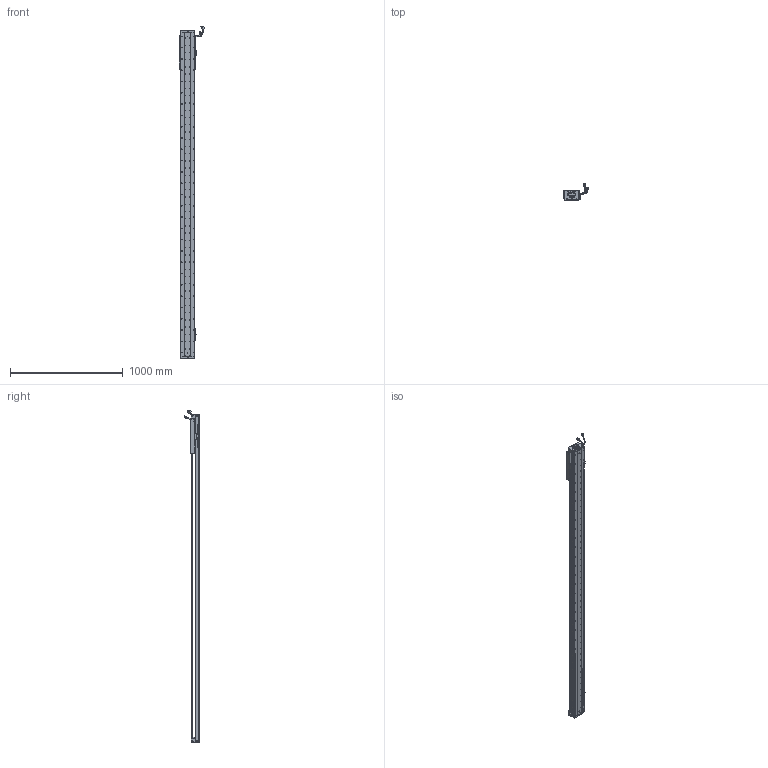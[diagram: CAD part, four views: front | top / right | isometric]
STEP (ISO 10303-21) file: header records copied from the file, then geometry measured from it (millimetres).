
FILE_DESCRIPTION (( 'STEP AP203' ), '1' );
FILE_NAME ('Z4-RY120D-1-L500-B-K.SLDASM_2500.step', '2021-05-17T06:10:39', ( '盈信电脑' ), ( '东莞市道滘镇水果街19号' ), 'SwSTEP 2.0', 'SolidWorks 2016', '' );
FILE_SCHEMA (( 'CONFIG_CONTROL_DESIGN' ));
Length unit declared in the file: millimetre
Products named in the file (37): 120-Z-臏賑輸盄裔(21遴); 672嫖萇羲壽假蚾釱; 140蚥薯蝶輸; PSLH080_PSLF2; 140雄赽晤鎢ん堤盄; Z4-RY120-500-倰第菁釱_2500; COVER-Part-1; 080黍杅芛假蚾釱21遴; Z-RY120D詩湍奻揤裔; LABEL-Part-1; HARNESS; HARNESS-Part-2; HOLDER0; SCREW-M1.7; SEAL; Z4-RY120D-1-L500-B-K.SLDASM_2500; PBU_SHEET; Z4-RY120-L500詩湍100mm遵_2500; SCALE-Part-2; Z4-RY120铝滑块（21款）; SCREW-M1.6-2; SCALE-Part-1; SCREW-M1.7-1; RY100FB-遵嫖萇覜茼え; 榋妏寠巭燃_暯_M2_2; SEAL-Part-1; SHIELDPLATE; HARNESS-Part-1; SCREW-M1.6; COVER; Z-RY120D詩湍狟揤裔; Z-120詩湍傷裔啣; 覜茼ん672; SCREW-M1.6-1; SCALE; SCREW-M1.6-3; LABEL
Assembly tree (43 placements, depth 4):
  Z4-RY120D-1-L500-B-K.SLDASM_2500
    Z4-RY120-500-倰第菁釱_2500
    覜茼ん672  x3
    672嫖萇羲壽假蚾釱  x2
    Z4-RY120铝滑块（21款）
    PSLH080_PSLF2
      SCALE
        SCALE-Part-1
        SCALE-Part-2
      HARNESS
        HARNESS-Part-1
        HARNESS-Part-2
      LABEL
        LABEL-Part-1
      COVER
        COVER-Part-1
      SEAL
        SEAL-Part-1
      榋妏寠巭燃_暯_M2_2
      SHIELDPLATE
      SCREW-M1.7
      SCREW-M1.7-1
      PBU_SHEET
      SCREW-M1.6
      SCREW-M1.6-1
      SCREW-M1.6-2
      SCREW-M1.6-3
      HOLDER0
    080黍杅芛假蚾釱21遴
    120-Z-臏賑輸盄裔(21遴)
    140雄赽晤鎢ん堤盄
    140蚥薯蝶輸  x2
    RY100FB-遵嫖萇覜茼え
    Z-120詩湍傷裔啣  x2
    Z-RY120D詩湍奻揤裔  x2
    Z-RY120D詩湍狟揤裔  x2
    Z4-RY120-L500詩湍100mm遵_2500
Bounding box: 222.83 x 140.94 x 2938.99 mm (x, y, z)
Volume: 6986329.8 mm3; surface area: 2417544.7 mm2
Topology: 38 solids, 38 shells, 3859 faces, 11056 edges, 6978 vertices
Faces by surface type: cylinder 2064, plane 1273, cone 400, torus 69, bspline 53
Entity records: 131311 total; most frequent: CARTESIAN_POINT 40786, ORIENTED_EDGE 18840, DIRECTION 17140, EDGE_CURVE 9420, AXIS2_PLACEMENT_3D 6352, VERTEX_POINT 6098, LINE 4436, VECTOR 4436
